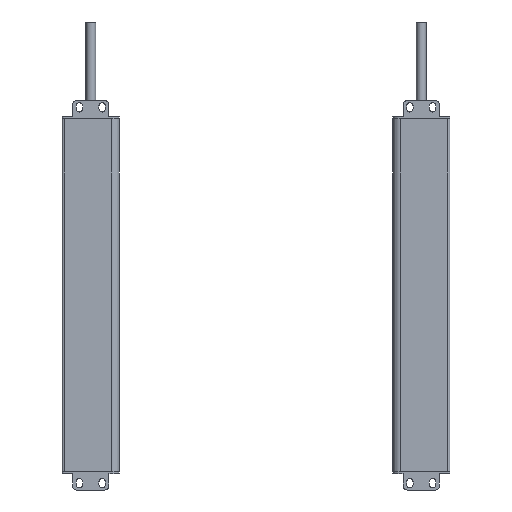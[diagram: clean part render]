
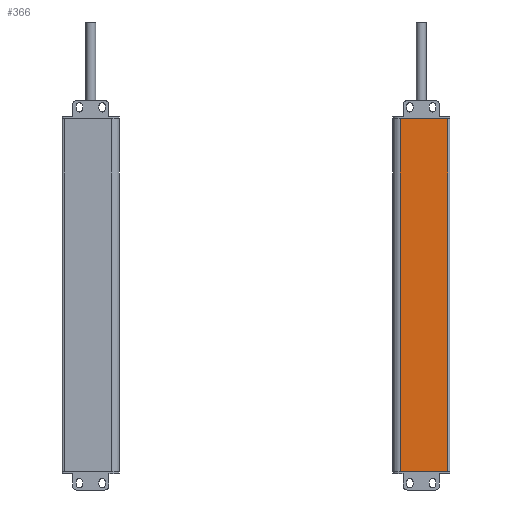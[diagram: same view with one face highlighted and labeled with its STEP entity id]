
A CAD part, front view. The second image highlights one B-rep face of the part: STEP entity #366.
In plain terms, the highlighted planar face has unit normal (0, -1, 0).
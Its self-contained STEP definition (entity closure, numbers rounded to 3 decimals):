
#123=PLANE('',#5869);
#366=ADVANCED_FACE('',(#797),#123,.T.);
#797=FACE_OUTER_BOUND('',#1073,.T.);
#1073=EDGE_LOOP('',(#1780,#1781,#1782,#1783));
#1780=ORIENTED_EDGE('',*,*,#3977,.T.);
#1781=ORIENTED_EDGE('',*,*,#3978,.F.);
#1782=ORIENTED_EDGE('',*,*,#3979,.F.);
#1783=ORIENTED_EDGE('',*,*,#3903,.T.);
#3351=VERTEX_POINT('',#8106);
#3352=VERTEX_POINT('',#8108);
#3421=VERTEX_POINT('',#8253);
#3422=VERTEX_POINT('',#8257);
#3903=EDGE_CURVE('',#3352,#3351,#4726,.T.);
#3977=EDGE_CURVE('',#3351,#3421,#4771,.T.);
#3978=EDGE_CURVE('',#3422,#3421,#4772,.T.);
#3979=EDGE_CURVE('',#3352,#3422,#4773,.T.);
#4726=LINE('',#8107,#5280);
#4771=LINE('',#8254,#5325);
#4772=LINE('',#8256,#5326);
#4773=LINE('',#8258,#5327);
#5280=VECTOR('',#6413,1.);
#5325=VECTOR('',#6522,1.);
#5326=VECTOR('',#6525,1.);
#5327=VECTOR('',#6526,1.);
#5869=AXIS2_PLACEMENT_3D('',#8259,#6527,#6528);
#6413=DIRECTION('',(1.,0.,0.));
#6522=DIRECTION('',(0.,0.,1.));
#6525=DIRECTION('',(1.,0.,0.));
#6526=DIRECTION('',(0.,0.,1.));
#6527=DIRECTION('',(0.,-1.,0.));
#6528=DIRECTION('',(-1.,0.,0.));
#8106=CARTESIAN_POINT('',(3.35,-1.3,-100.));
#8107=CARTESIAN_POINT('',(-21.15,-1.3,-100.));
#8108=CARTESIAN_POINT('',(-21.15,-1.3,-100.));
#8253=CARTESIAN_POINT('',(3.35,-1.3,82.));
#8254=CARTESIAN_POINT('',(3.35,-1.3,-100.));
#8256=CARTESIAN_POINT('',(-4122.897,-1.3,82.));
#8257=CARTESIAN_POINT('',(-21.15,-1.3,82.));
#8258=CARTESIAN_POINT('',(-21.15,-1.3,-100.));
#8259=CARTESIAN_POINT('',(-21.15,-1.3,-100.));
